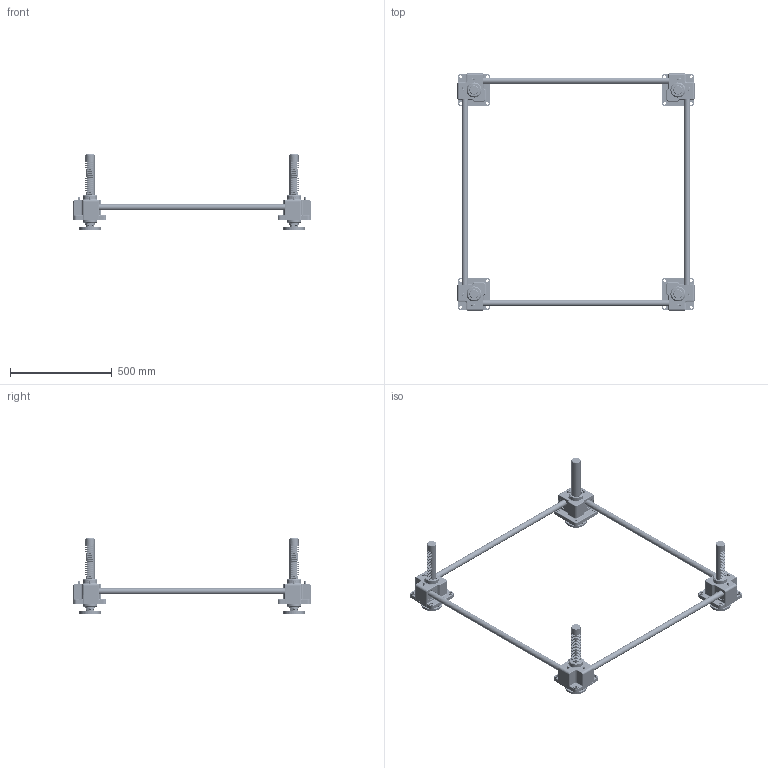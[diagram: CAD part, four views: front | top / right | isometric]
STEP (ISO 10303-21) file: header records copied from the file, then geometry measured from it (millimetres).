
FILE_DESCRIPTION(('STEP AP203'),'1');
FILE_NAME('SP5000FU-1000x1000-200ST.stp','2022-06-15T02:10:04',(' '),(' '),'Spatial InterOp 3D',' ',' ');
FILE_SCHEMA(('CONFIG_CONTROL_DESIGN'));
Length unit declared in the file: millimetre
Products named in the file (91): SP5000FU-1000x1000-200ST; ASSEM1; Flange.1-Part; Flange.1; Joint.1; Nut.1; Flange.2-Part; Flange.2; Joint.2; Nut.2; Flange.3-Part; Flange.3; Joint.3; Nut.3; Flange.4-Part; Flange.4; Joint.4; Nut.4; Body.1-Part; SnapRing-61Pie; SnapRing-65Pie; #2611; #2628; Du Bush; Nipple; Gear Box.1(NSP-5000); RJ05-4SCJ-610X600-100ST_CAP; LABEL-B.1; ___; 파트18; __; Body.2-Part; #2964; #2981; Gear Box.2(NSP-5000); Body.3-Part; #3249; #3266; Gear Box.3(NSP-5000); Body.4-Part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
Assembly tree (92 placements, depth 6):
  SP5000FU-1000x1000-200ST
    ASSEM1
    (unnamed)
    (unnamed)
    (unnamed)
    Flange.1-Part
      Flange.1
      Joint.1
      Nut.1
    Flange.2-Part
      Flange.2
      Joint.2
      Nut.2
    Flange.3-Part
      Flange.3
      Joint.3
      Nut.3
    Flange.4-Part
      Flange.4
      Joint.4
      Nut.4
    Body.1-Part
      SnapRing-61Pie
      SnapRing-65Pie
      SnapRing-65Pie
      SnapRing-61Pie
      #2611
      #2628
      Du Bush
      Du Bush
      Nipple
      Nipple
      Gear Box.1(NSP-5000)
      __
        ___
          RJ05-4SCJ-610X600-100ST_CAP
            LABEL-B.1
          파트18
    Body.2-Part
      Nipple
      Nipple
      SnapRing-61Pie
      SnapRing-61Pie
      SnapRing-65Pie
      SnapRing-65Pie
      Du Bush
      Du Bush
      #2964
      #2981
      Gear Box.2(NSP-5000)
      __
        ___
          RJ05-4SCJ-610X600-100ST_CAP
            LABEL-B.1
          파트18
    Body.3-Part
      Nipple
      Nipple
      SnapRing-61Pie
      SnapRing-61Pie
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Bounding box: 1164.44 x 1164.44 x 370 mm (x, y, z)
Volume: 9323724.7 mm3; surface area: 1729692.9 mm2
Topology: 96 solids, 96 shells, 9684 faces, 26742 edges, 17254 vertices
Faces by surface type: plane 7888, cylinder 1052, sphere 248, cone 240, torus 200, bspline 40, revolution 16
Full cylindrical faces by diameter (mm): 3.42 x16, 3.642 x16, 5.6 x8, 8 x8, 9.886 x8, 14 x32, 24 x8, 25 x16, 28 x4, 30 x20, 32 x4, 34 x8, 39.2 x16, 44 x4, 45 x16, 50 x4, 54 x4, 54.4 x16, 55 x20, 58 x8, 60 x8, 61 x8, 62 x16, 62.4 x8, 65 x8, 70 x8, 105 x4
Entity records: 309872 total; most frequent: CARTESIAN_POINT 63389, ORIENTED_EDGE 51048, DIRECTION 47390, EDGE_CURVE 25524, LINE 21664, VECTOR 21664, VERTEX_POINT 16876, AXIS2_PLACEMENT_3D 12855
